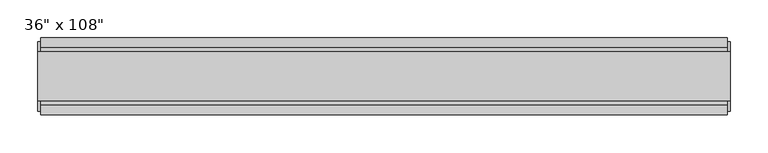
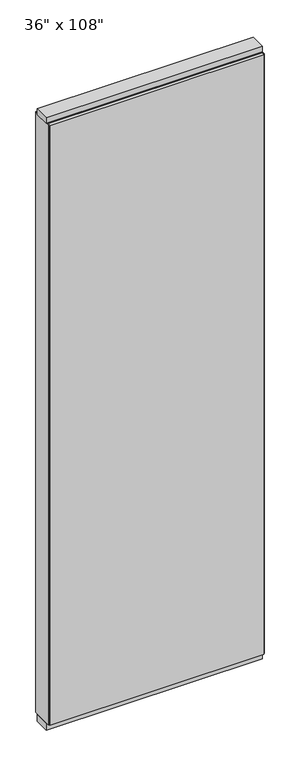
"""IFC4 building model written with IfcOpenShell, lengths in millimetres: furniture geometry."""

from ifc_helpers import new_model, si_unit, frame, origin, origin_with_axes, place, context, project, spatial, polyline, outline, extrude, source, transform, mapped, element, save


def furniture_50c4cc93(model_context):
    return source(origin(), model_context, "Body", "SweptSolid", [
        extrude(outline(polyline([(393.2264771, 46.2822784), (393.2264771, 33.5822784), (-513.2995229, 33.5822784), (-513.2995229, 46.2822784), (393.2264771, 46.2822784)])), frame((0.0, 0.0, 31.75), z_axis=(0.0, 0.0, 1.0), x_axis=(1.0, 0.0, 0.0)), (0.0, 0.0, 1.0), 2686.05),
        extrude(outline(polyline([(393.2264771, -55.3177216), (-513.2995229, -55.3177216), (-513.2995229, -42.6177216), (393.2264771, -42.6177216), (393.2264771, -55.3177216)])), frame((0.0, 0.0, 31.75), z_axis=(0.0, 0.0, 1.0), x_axis=(1.0, 0.0, 0.0)), (0.0, 0.0, 1.0), 2686.05),
        extrude(outline(polyline([(-42.6177216, 2681.478), (-42.6177216, 2717.8), (33.5822784, 2717.8), (33.5822784, 2681.478), (28.6292784, 2681.478), (28.6292784, 2676.525), (-37.6647216, 2676.525), (-37.6647216, 2681.478), (-42.6177216, 2681.478)])), frame((-513.2995229, 0.0, 0.0), z_axis=(1.0, 0.0, 0.0), x_axis=(0.0, 1.0, 0.0)), (0.0, 0.0, 1.0), 906.526),
        extrude(outline(polyline([(397.1634771, 27.9942784), (397.1634771, -37.0297216), (-517.2365229, -37.0297216), (-517.2365229, 27.9942784), (397.1634771, 27.9942784)])), origin_with_axes(), (0.0, 0.0, 1.0), 31.75),
        extrude(outline(polyline([(-517.2365229, -37.0297216), (-517.2365229, 27.9942784), (397.1634771, 27.9942784), (397.1634771, -37.0297216), (-517.2365229, -37.0297216)])), frame((0.0, 0.0, 2717.8), z_axis=(0.0, 0.0, 1.0), x_axis=(1.0, 0.0, 0.0)), (0.0, 0.0, 1.0), 25.4),
        extrude(outline(polyline([(397.1634771, -50.3647216), (393.2264771, -50.3647216), (393.2264771, 41.3292784), (397.1634771, 41.3292784), (397.1634771, -50.3647216)])), frame((0.0, 0.0, 31.75), z_axis=(0.0, 0.0, 1.0), x_axis=(1.0, 0.0, 0.0)), (0.0, 0.0, 1.0), 2686.05),
        extrude(outline(polyline([(-517.2365229, -50.3647216), (-517.2365229, 41.3292784), (-513.2995229, 41.3292784), (-513.2995229, -50.3647216), (-517.2365229, -50.3647216)])), frame((0.0, 0.0, 31.75), z_axis=(0.0, 0.0, 1.0), x_axis=(1.0, 0.0, 0.0)), (0.0, 0.0, 1.0), 2686.05),
    ])


if __name__ == "__main__":
    model = new_model("IFC4")
    model_context = context("Model", 3, world=origin())
    ifc_project = project(units=[si_unit("LENGTHUNIT", "METRE", prefix="MILLI")], contexts=[model_context])
    site = spatial("IfcSite", under=ifc_project)
    building = spatial("IfcBuilding", under=site)
    placement = place(None, origin())
    furniture_shape = furniture_50c4cc93(model_context)
    element("IfcFurniture", 1, ObjectType="Haworth_Enclose_Wall_Solid : 36\" x 108\"", at=placement, inside=building, context=model_context, shape_type="MappedRepresentation", body=[
        mapped(furniture_shape, transform((0.0, 0.0, 0.0), x_axis=(1.0, 0.0, 0.0), y_axis=(0.0, 1.0, 0.0), z_axis=(0.0, 0.0, 1.0))),
    ])
    save(model, "model.ifc")
